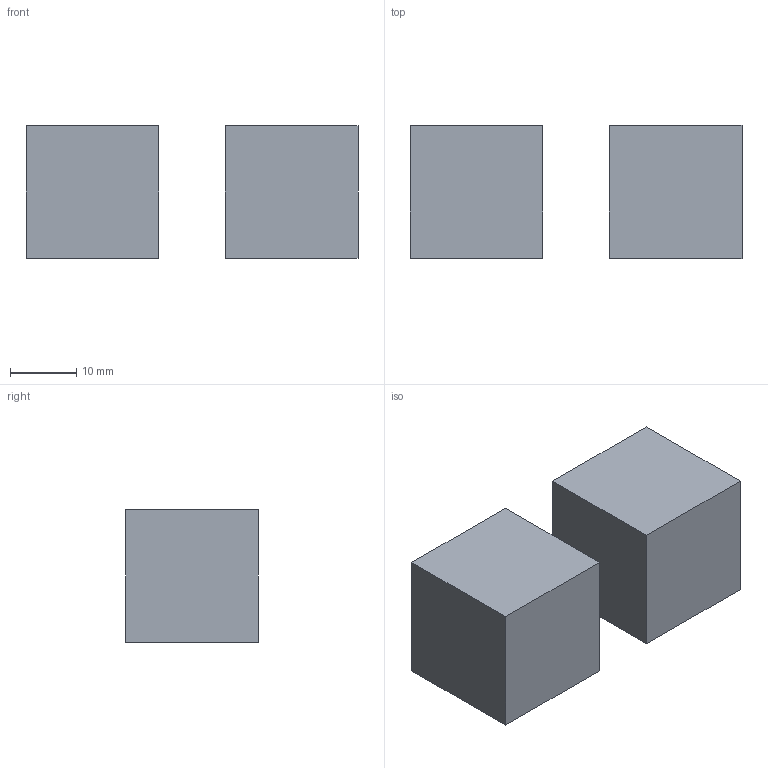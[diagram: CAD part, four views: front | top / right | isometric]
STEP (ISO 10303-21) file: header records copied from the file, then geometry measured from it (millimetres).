
FILE_DESCRIPTION(('CoreLinks own small fixture'),'2;1');
FILE_NAME('two-cubes-assembly.step','2026-10-05T00:00:00',('CoreLinks'),('CoreLinks'),'CoreLinks fixture generator','CoreLinks','');
FILE_SCHEMA(('AUTOMOTIVE_DESIGN'));
Length unit declared in the file: millimetre
Products named in the file (2): CoreLinks cube; CoreLinks assembly
Assembly tree (2 placements, depth 2):
  CoreLinks assembly
    CoreLinks cube  x2
Bounding box: 50 x 20 x 20 mm (x, y, z)
Volume: 16000 mm3; surface area: 4800 mm2
Topology: 2 solids, 2 shells, 12 faces, 24 edges, 16 vertices
Faces by surface type: plane 12
Entity records: 85 total; most frequent: DIRECTION 14, CARTESIAN_POINT 11, AXIS2_PLACEMENT_3D 9, POLY_LOOP 6, FACE_OUTER_BOUND 6, PLANE 6, FACE_SURFACE 6, PRODUCT_DEFINITION_SHAPE 4
